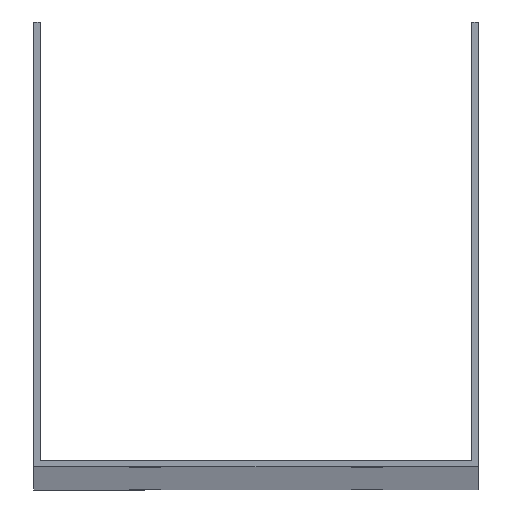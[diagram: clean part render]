
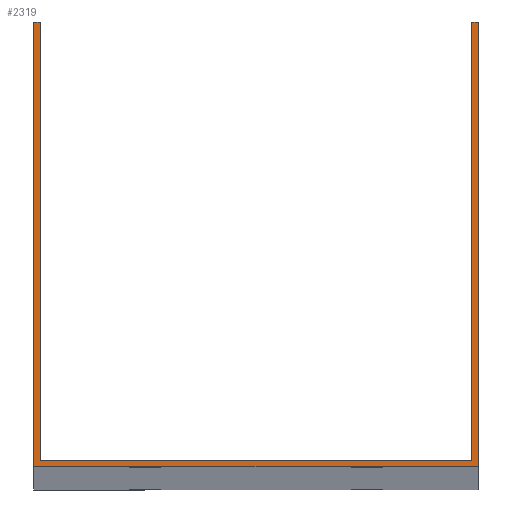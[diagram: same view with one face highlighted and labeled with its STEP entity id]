
A CAD part, top view. The second image highlights one B-rep face of the part: STEP entity #2319.
In plain terms, the highlighted planar face has unit normal (0, 0, 1).
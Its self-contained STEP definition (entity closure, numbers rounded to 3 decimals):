
#20 = DIRECTION ( 'NONE',  ( -1., 0., 0. ) ) ;
#132 = EDGE_CURVE ( 'NONE', #2846, #2159, #3416, .T. ) ;
#395 = EDGE_CURVE ( 'NONE', #2159, #3139, #1111, .T. ) ;
#485 = CARTESIAN_POINT ( 'NONE',  ( 0., 0., 1500. ) ) ;
#552 = EDGE_CURVE ( 'NONE', #2510, #3422, #1593, .T. ) ;
#575 = ORIENTED_EDGE ( 'NONE', *, *, #1192, .T. ) ;
#644 = CARTESIAN_POINT ( 'NONE',  ( 48.5, 1.5, 1500. ) ) ;
#658 = CARTESIAN_POINT ( 'NONE',  ( -48.5, 100., 1500. ) ) ;
#699 = DIRECTION ( 'NONE',  ( -1., 0., 0. ) ) ;
#790 = CARTESIAN_POINT ( 'NONE',  ( -50., 100., 1500. ) ) ;
#796 = ORIENTED_EDGE ( 'NONE', *, *, #552, .F. ) ;
#976 = CARTESIAN_POINT ( 'NONE',  ( 48.5, 100., 1500. ) ) ;
#977 = LINE ( 'NONE', #2085, #1384 ) ;
#993 = FACE_OUTER_BOUND ( 'NONE', #1978, .T. ) ;
#995 = DIRECTION ( 'NONE',  ( 1., 0., 0. ) ) ;
#1047 = DIRECTION ( 'NONE',  ( 0., -1., 0. ) ) ;
#1111 = LINE ( 'NONE', #1400, #3108 ) ;
#1175 = CARTESIAN_POINT ( 'NONE',  ( -50., 100., 1500. ) ) ;
#1192 = EDGE_CURVE ( 'NONE', #1347, #3226, #3292, .T. ) ;
#1244 = CARTESIAN_POINT ( 'NONE',  ( 48.5, 100., 1500. ) ) ;
#1280 = CARTESIAN_POINT ( 'NONE',  ( -50., 100., 1500. ) ) ;
#1285 = PLANE ( 'NONE',  #2244 ) ;
#1341 = ORIENTED_EDGE ( 'NONE', *, *, #1413, .F. ) ;
#1347 = VERTEX_POINT ( 'NONE', #1175 ) ;
#1384 = VECTOR ( 'NONE', #995, 1000. ) ;
#1400 = CARTESIAN_POINT ( 'NONE',  ( -50., 100., 1500. ) ) ;
#1413 = EDGE_CURVE ( 'NONE', #3355, #2510, #2287, .T. ) ;
#1440 = ORIENTED_EDGE ( 'NONE', *, *, #3127, .T. ) ;
#1593 = LINE ( 'NONE', #3262, #3050 ) ;
#1680 = CARTESIAN_POINT ( 'NONE',  ( 50., 0., 1500. ) ) ;
#1879 = DIRECTION ( 'NONE',  ( 1., 0., 0. ) ) ;
#1886 = DIRECTION ( 'NONE',  ( 0., 1., 0. ) ) ;
#1978 = EDGE_LOOP ( 'NONE', ( #1341, #1440, #575, #2922, #2161, #3545, #2312, #796 ) ) ;
#2001 = DIRECTION ( 'NONE',  ( 0., -1., 0. ) ) ;
#2084 = DIRECTION ( 'NONE',  ( 0., 1., 0. ) ) ;
#2085 = CARTESIAN_POINT ( 'NONE',  ( -50., 0., 1500. ) ) ;
#2140 = DIRECTION ( 'NONE',  ( 1., 0., 0. ) ) ;
#2159 = VERTEX_POINT ( 'NONE', #3407 ) ;
#2161 = ORIENTED_EDGE ( 'NONE', *, *, #132, .T. ) ;
#2244 = AXIS2_PLACEMENT_3D ( 'NONE', #485, #2675, #1879 ) ;
#2287 = LINE ( 'NONE', #3135, #3518 ) ;
#2312 = ORIENTED_EDGE ( 'NONE', *, *, #2338, .F. ) ;
#2319 = ADVANCED_FACE ( 'NONE', ( #993 ), #1285, .T. ) ;
#2338 = EDGE_CURVE ( 'NONE', #3422, #3139, #2347, .T. ) ;
#2347 = LINE ( 'NONE', #976, #2941 ) ;
#2365 = LINE ( 'NONE', #1280, #2771 ) ;
#2510 = VERTEX_POINT ( 'NONE', #3418 ) ;
#2524 = VECTOR ( 'NONE', #1047, 1000. ) ;
#2675 = DIRECTION ( 'NONE',  ( 0., 0., 1. ) ) ;
#2697 = VECTOR ( 'NONE', #1886, 1000. ) ;
#2763 = EDGE_CURVE ( 'NONE', #3226, #2846, #977, .T. ) ;
#2771 = VECTOR ( 'NONE', #699, 1000. ) ;
#2846 = VERTEX_POINT ( 'NONE', #1680 ) ;
#2922 = ORIENTED_EDGE ( 'NONE', *, *, #2763, .T. ) ;
#2941 = VECTOR ( 'NONE', #2084, 1000. ) ;
#3050 = VECTOR ( 'NONE', #2140, 1000. ) ;
#3108 = VECTOR ( 'NONE', #20, 1000. ) ;
#3127 = EDGE_CURVE ( 'NONE', #3355, #1347, #2365, .T. ) ;
#3135 = CARTESIAN_POINT ( 'NONE',  ( -48.5, 100., 1500. ) ) ;
#3139 = VERTEX_POINT ( 'NONE', #1244 ) ;
#3200 = CARTESIAN_POINT ( 'NONE',  ( 50., 100., 1500. ) ) ;
#3226 = VERTEX_POINT ( 'NONE', #3559 ) ;
#3262 = CARTESIAN_POINT ( 'NONE',  ( -50., 1.5, 1500. ) ) ;
#3292 = LINE ( 'NONE', #790, #2524 ) ;
#3355 = VERTEX_POINT ( 'NONE', #658 ) ;
#3407 = CARTESIAN_POINT ( 'NONE',  ( 50., 100., 1500. ) ) ;
#3416 = LINE ( 'NONE', #3200, #2697 ) ;
#3418 = CARTESIAN_POINT ( 'NONE',  ( -48.5, 1.5, 1500. ) ) ;
#3422 = VERTEX_POINT ( 'NONE', #644 ) ;
#3518 = VECTOR ( 'NONE', #2001, 1000. ) ;
#3545 = ORIENTED_EDGE ( 'NONE', *, *, #395, .T. ) ;
#3559 = CARTESIAN_POINT ( 'NONE',  ( -50., 0., 1500. ) ) ;
